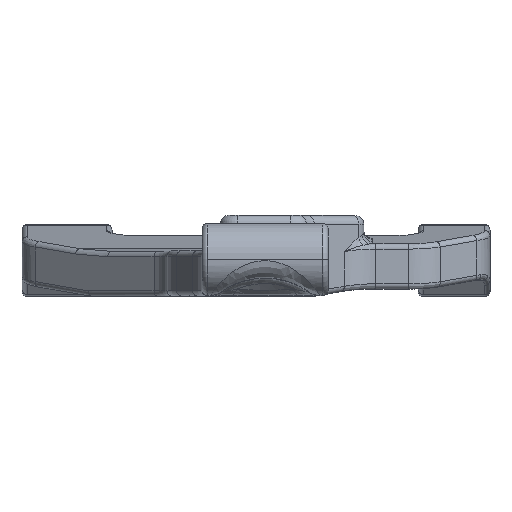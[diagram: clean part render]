
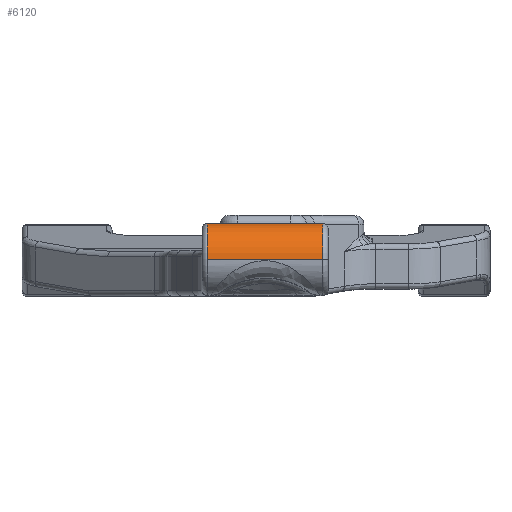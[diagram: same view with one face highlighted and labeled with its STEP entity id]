
A CAD part, top view. The second image highlights one B-rep face of the part: STEP entity #6120.
In plain terms, the highlighted cylindrical face has radius 4 mm (diameter 8 mm), a partial arc.
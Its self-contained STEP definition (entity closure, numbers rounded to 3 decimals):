
#58 = CARTESIAN_POINT ( 'NONE',  ( 6.4, 6.464, 76. ) ) ;
#176 = LINE ( 'NONE', #4364, #6204 ) ;
#282 = FACE_OUTER_BOUND ( 'NONE', #6882, .T. ) ;
#592 = CARTESIAN_POINT ( 'NONE',  ( -6.4, 3., 82. ) ) ;
#739 = EDGE_CURVE ( 'NONE', #4921, #1748, #4998, .T. ) ;
#1413 = ORIENTED_EDGE ( 'NONE', *, *, #739, .T. ) ;
#1748 = VERTEX_POINT ( 'NONE', #592 ) ;
#1972 = CARTESIAN_POINT ( 'NONE',  ( 6.4, 3., 78. ) ) ;
#2200 = VERTEX_POINT ( 'NONE', #5948 ) ;
#2310 = DIRECTION ( 'NONE',  ( -1., 0., 0. ) ) ;
#2545 = DIRECTION ( 'NONE',  ( 0., 0., 1. ) ) ;
#2558 = ORIENTED_EDGE ( 'NONE', *, *, #6550, .F. ) ;
#2723 = AXIS2_PLACEMENT_3D ( 'NONE', #1972, #6027, #2545 ) ;
#2839 = AXIS2_PLACEMENT_3D ( 'NONE', #5868, #6423, #7009 ) ;
#2852 = VERTEX_POINT ( 'NONE', #58 ) ;
#3861 = CIRCLE ( 'NONE', #2723, 4. ) ;
#4079 = ORIENTED_EDGE ( 'NONE', *, *, #6665, .F. ) ;
#4364 = CARTESIAN_POINT ( 'NONE',  ( 18.314, 3., 82. ) ) ;
#4388 = DIRECTION ( 'NONE',  ( -1., 0., 0. ) ) ;
#4921 = VERTEX_POINT ( 'NONE', #7231 ) ;
#4998 = CIRCLE ( 'NONE', #2839, 4. ) ;
#5448 = LINE ( 'NONE', #6003, #6561 ) ;
#5465 = CYLINDRICAL_SURFACE ( 'NONE', #6240, 4. ) ;
#5749 = EDGE_CURVE ( 'NONE', #2200, #2852, #3861, .T. ) ;
#5780 = DIRECTION ( 'NONE',  ( 1., 0., 0. ) ) ;
#5796 = CARTESIAN_POINT ( 'NONE',  ( 18.314, 3., 78. ) ) ;
#5868 = CARTESIAN_POINT ( 'NONE',  ( -6.4, 3., 78. ) ) ;
#5948 = CARTESIAN_POINT ( 'NONE',  ( 6.4, 3., 82. ) ) ;
#6003 = CARTESIAN_POINT ( 'NONE',  ( -14.431, 6.464, 76. ) ) ;
#6027 = DIRECTION ( 'NONE',  ( -1., 0., 0. ) ) ;
#6120 = ADVANCED_FACE ( 'NONE', ( #282 ), #5465, .T. ) ;
#6204 = VECTOR ( 'NONE', #4388, 1000. ) ;
#6240 = AXIS2_PLACEMENT_3D ( 'NONE', #5796, #2310, #7539 ) ;
#6309 = ORIENTED_EDGE ( 'NONE', *, *, #5749, .T. ) ;
#6423 = DIRECTION ( 'NONE',  ( 1., 0., 0. ) ) ;
#6550 = EDGE_CURVE ( 'NONE', #2200, #1748, #176, .T. ) ;
#6561 = VECTOR ( 'NONE', #5780, 1000. ) ;
#6665 = EDGE_CURVE ( 'NONE', #4921, #2852, #5448, .T. ) ;
#6882 = EDGE_LOOP ( 'NONE', ( #2558, #6309, #4079, #1413 ) ) ;
#7009 = DIRECTION ( 'NONE',  ( 0., 0., -1. ) ) ;
#7231 = CARTESIAN_POINT ( 'NONE',  ( -6.4, 6.464, 76. ) ) ;
#7539 = DIRECTION ( 'NONE',  ( 0., 0., 1. ) ) ;
